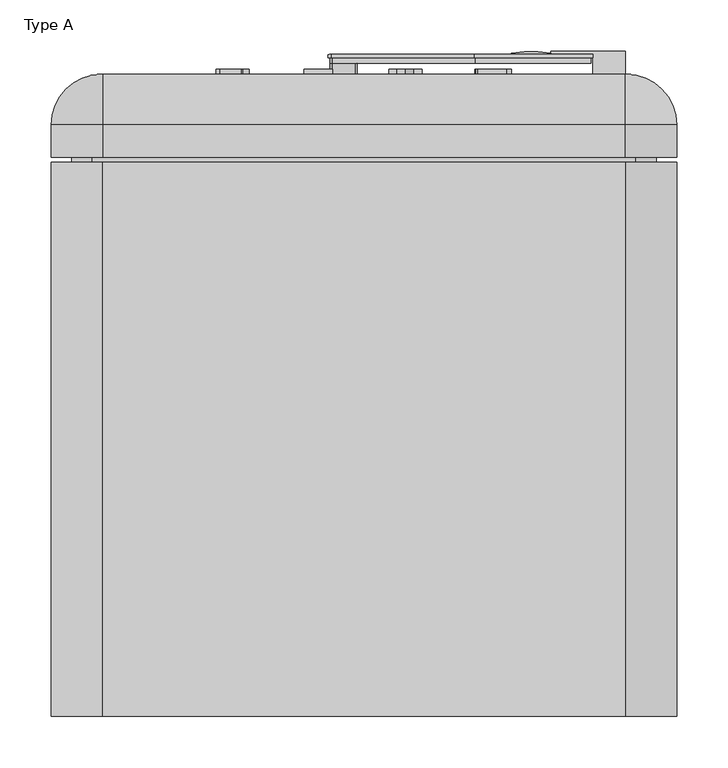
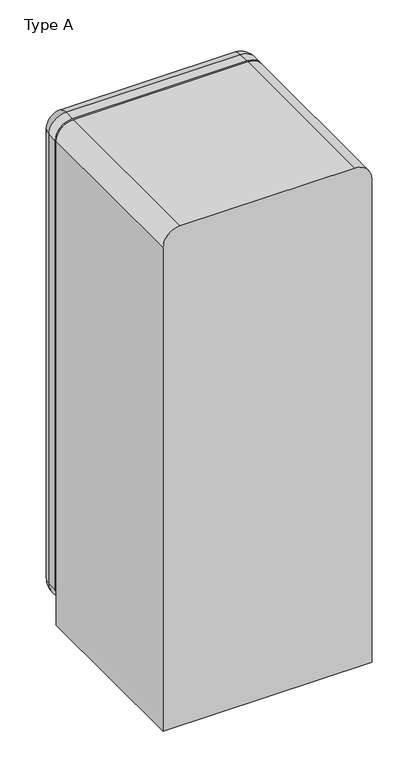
"""IFC4 building model written with IfcOpenShell, lengths in millimetres: proxy geometry, SMEG_-_Retro_Refrigerator_13153 : Type A."""

from ifc_helpers import new_model, si_unit, point, frame, frame_2d, origin, origin_with_axes, place, context, project, spatial, polyline, circle_curve, ellipse_curve, trimmed, segment, composite_curve, outline, extrude, source, transform, mapped, element, save
from ifc_brep_helpers import plane_surface, cylinder_surface, revolved_surface, advanced_brep


def type_a_472c7ea6(model_context):
    return source(origin(), model_context, "Body", "SolidModel", [
        extrude(outline(composite_curve([segment(trimmed(circle_curve(frame_2d((265.0978251, 40.0)), 20.0), [point((245.0978251, 40.0))], [point((285.0978251, 40.0))], False, "CARTESIAN"), True, "CONTINUOUS"), segment(trimmed(circle_curve(frame_2d((265.0978251, 40.0)), 20.0), [point((285.0978251, 40.0))], [point((245.0978251, 40.0))], False, "CARTESIAN"), True, "CONTINUOUS")], self_intersect=False)), origin_with_axes(), (0.0, 0.0, 1.0), 5.0),
        extrude(outline(composite_curve([segment(trimmed(circle_curve(frame_2d((-265.0978251, 40.0)), 20.0), [point((-285.0978251, 40.0))], [point((-245.0978251, 40.0))], False, "CARTESIAN"), True, "CONTINUOUS"), segment(trimmed(circle_curve(frame_2d((-265.0978251, 40.0)), 20.0), [point((-245.0978251, 40.0))], [point((-285.0978251, 40.0))], False, "CARTESIAN"), True, "CONTINUOUS")], self_intersect=False)), origin_with_axes(), (0.0, 0.0, 1.0), 5.0),
        extrude(outline(composite_curve([segment(trimmed(circle_curve(frame_2d((265.0978251, 505.3200021)), 20.0), [point((245.0978251, 505.3200021))], [point((285.0978251, 505.3200021))], False, "CARTESIAN"), True, "CONTINUOUS"), segment(trimmed(circle_curve(frame_2d((265.0978251, 505.3200021)), 20.0), [point((285.0978251, 505.3200021))], [point((245.0978251, 505.3200021))], False, "CARTESIAN"), True, "CONTINUOUS")], self_intersect=False)), origin_with_axes(), (0.0, 0.0, 1.0), 5.0),
        extrude(outline(composite_curve([segment(trimmed(circle_curve(frame_2d((-265.0978251, 505.3200021)), 20.0), [point((-285.0978251, 505.3200021))], [point((-245.0978251, 505.3200021))], False, "CARTESIAN"), True, "CONTINUOUS"), segment(trimmed(circle_curve(frame_2d((-265.0978251, 505.3200021)), 20.0), [point((-245.0978251, 505.3200021))], [point((-285.0978251, 505.3200021))], False, "CARTESIAN"), True, "CONTINUOUS")], self_intersect=False)), origin_with_axes(), (0.0, 0.0, 1.0), 5.0),
        extrude(outline(composite_curve([segment(polyline([(1073.4546732, 180.6528605), (1073.4546732, 221.4244494), (1077.7887864, 221.4244494), (1073.8326231, 108.1347541)]), True, "CONTINUOUS"), segment(trimmed(circle_curve(frame_2d((-978.9801442, 192.0545452)), 2054.5273882), [point((1073.8326231, 108.1347541))], [point((1063.3646393, -31.352201))], False, "CARTESIAN"), True, "CONTINUOUS"), segment(trimmed(circle_curve(frame_2d((1061.2464991, -31.1205032)), 2.1307749), [point((1063.3646393, -31.352201))], [point((1061.2464991, -33.2512781))], False, "CARTESIAN"), True, "CONTINUOUS"), segment(polyline([(1061.2464991, -33.2512781), (1052.0628473, -33.2512781)]), True, "CONTINUOUS"), segment(trimmed(circle_curve(frame_2d((1052.0628473, -31.1205032)), 2.1307749), [point((1052.0628473, -33.2512781))], [point((1049.9447071, -31.352201))], False, "CARTESIAN"), True, "CONTINUOUS"), segment(trimmed(circle_curve(frame_2d((3092.2894906, 192.0545452)), 2054.5273882), [point((1049.9447071, -31.352201))], [point((1039.4767233, 108.1347541))], False, "CARTESIAN"), True, "CONTINUOUS"), segment(polyline([(1039.4767233, 108.1347541), (1035.52056, 221.4244494), (1039.8546732, 221.4244494), (1039.8546732, 180.6528605), (1073.4546732, 180.6528605)]), True, "CONTINUOUS")], self_intersect=False)), frame((0.0, 637.1901804, 0.0), z_axis=(0.0, 1.0, 0.0), x_axis=(0.0, 0.0, 1.0)), (0.0, 0.0, 1.0), 5.2925432),
        extrude(outline(composite_curve([segment(trimmed(circle_curve(frame_2d((1052.4839604, -31.1205032)), 2.1307749), [point((1052.4839604, -33.2512781))], [point((1050.3658202, -31.352201))], False, "CARTESIAN"), True, "CONTINUOUS"), segment(trimmed(circle_curve(frame_2d((3092.7106037, 192.0545452)), 2054.5273882), [point((1050.3658202, -31.352201))], [point((1047.9918659, -8.4649603))], False, "CARTESIAN"), True, "CONTINUOUS"), segment(trimmed(circle_curve(frame_2d((1049.7692462, -8.2906579)), 1.7859065), [point((1047.9918659, -8.4649603))], [point((1049.7692462, -6.5047514))], False, "CARTESIAN"), True, "CONTINUOUS"), segment(polyline([(1049.7692462, -6.5047514), (1063.4763437, -6.5047514)]), True, "CONTINUOUS"), segment(trimmed(circle_curve(frame_2d((1063.4763437, -8.348467)), 1.8437156), [point((1063.4763437, -6.5047514))], [point((1065.3112515, -8.5284685))], False, "CARTESIAN"), True, "CONTINUOUS"), segment(trimmed(circle_curve(frame_2d((-979.4012573, 192.0545452)), 2054.5273882), [point((1065.3112515, -8.5284685))], [point((1062.9435262, -31.352201))], False, "CARTESIAN"), True, "CONTINUOUS"), segment(trimmed(circle_curve(frame_2d((1060.825386, -31.1205032)), 2.1307749), [point((1062.9435262, -31.352201))], [point((1060.825386, -33.2512781))], False, "CARTESIAN"), True, "CONTINUOUS"), segment(polyline([(1060.825386, -33.2512781), (1052.4839604, -33.2512781)]), True, "CONTINUOUS")], self_intersect=False)), frame((0.0, 626.174088, 0.0), z_axis=(0.0, 1.0, 0.0), x_axis=(0.0, 0.0, 1.0)), (0.0, 0.0, 1.0), 11.0160924),
        extrude(outline(polyline([(251.7645617, 626.174088), (223.5217096, 626.174088), (223.5217096, 642.4827236), (182.4528605, 642.4827236), (182.4528605, 645.5405927), (251.7645617, 645.5405927), (251.7645617, 626.174088)])), frame((0.0, 0.0, 1044.4795448), z_axis=(0.0, 0.0, 1.0), x_axis=(1.0, 0.0, 0.0)), (0.0, 0.0, 1.0), 2.7254962),
        extrude(outline(polyline([(254.8224309, 626.174088), (223.5217096, 626.174088), (223.5217096, 642.4827236), (182.4528605, 642.4827236), (182.4528605, 648.5984619), (254.8224309, 648.5984619), (254.8224309, 626.174088)])), frame((0.0, 0.0, 1041.6546732), z_axis=(0.0, 0.0, 1.0), x_axis=(1.0, 0.0, 0.0)), (0.0, 0.0, 1.0), 2.8248716),
        extrude(outline(polyline([(254.8224309, 626.174088), (223.5217096, 626.174088), (223.5217096, 642.4827236), (182.4528605, 642.4827236), (182.4528605, 648.5984619), (254.8224309, 648.5984619), (254.8224309, 626.174088)])), frame((0.0, 0.0, 1047.205041), z_axis=(0.0, 0.0, 1.0), x_axis=(1.0, 0.0, 0.0)), (0.0, 0.0, 1.0), 2.638466),
        extrude(outline(polyline([(251.7645617, 626.174088), (223.5217096, 626.174088), (223.5217096, 642.4827236), (182.4528605, 642.4827236), (182.4528605, 645.5405927), (251.7645617, 645.5405927), (251.7645617, 626.174088)])), frame((0.0, 0.0, 1049.843507), z_axis=(0.0, 0.0, 1.0), x_axis=(1.0, 0.0, 0.0)), (0.0, 0.0, 1.0), 2.7254962),
        extrude(outline(polyline([(251.7645617, 626.174088), (223.5217096, 626.174088), (223.5217096, 642.4827236), (182.4528605, 642.4827236), (182.4528605, 645.5405927), (251.7645617, 645.5405927), (251.7645617, 626.174088)])), frame((0.0, 0.0, 1055.2074692), z_axis=(0.0, 0.0, 1.0), x_axis=(1.0, 0.0, 0.0)), (0.0, 0.0, 1.0), 2.7254962),
        extrude(outline(polyline([(254.8224309, 626.174088), (223.5217096, 626.174088), (223.5217096, 642.4827236), (182.4528605, 642.4827236), (182.4528605, 648.5984619), (254.8224309, 648.5984619), (254.8224309, 626.174088)])), frame((0.0, 0.0, 1052.5690032), z_axis=(0.0, 0.0, 1.0), x_axis=(1.0, 0.0, 0.0)), (0.0, 0.0, 1.0), 2.638466),
        extrude(outline(polyline([(254.8224309, 626.174088), (223.5217096, 626.174088), (223.5217096, 642.4827236), (182.4528605, 642.4827236), (182.4528605, 648.5984619), (254.8224309, 648.5984619), (254.8224309, 626.174088)])), frame((0.0, 0.0, 1057.9329654), z_axis=(0.0, 0.0, 1.0), x_axis=(1.0, 0.0, 0.0)), (0.0, 0.0, 1.0), 2.638466),
        extrude(outline(polyline([(251.7645617, 626.174088), (223.5217096, 626.174088), (223.5217096, 642.4827236), (182.4528605, 642.4827236), (182.4528605, 645.5405927), (251.7645617, 645.5405927), (251.7645617, 626.174088)])), frame((0.0, 0.0, 1060.5714314), z_axis=(0.0, 0.0, 1.0), x_axis=(1.0, 0.0, 0.0)), (0.0, 0.0, 1.0), 2.7254962),
        extrude(outline(polyline([(251.7645617, 626.174088), (223.5217096, 626.174088), (223.5217096, 642.4827236), (182.4528605, 642.4827236), (182.4528605, 645.5405927), (251.7645617, 645.5405927), (251.7645617, 626.174088)])), frame((0.0, 0.0, 1065.9353936), z_axis=(0.0, 0.0, 1.0), x_axis=(1.0, 0.0, 0.0)), (0.0, 0.0, 1.0), 2.7254962),
        extrude(outline(composite_curve([segment(polyline([(143.719851, 642.4827236), (143.719851, 646.5598825)]), True, "CONTINUOUS"), segment(trimmed(circle_curve(frame_2d((163.0863558, 555.5882746)), 93.0101873), [point((143.719851, 646.5598825))], [point((182.4528605, 646.5598825))], False, "CARTESIAN"), True, "CONTINUOUS"), segment(polyline([(182.4528605, 646.5598825), (182.4528605, 642.4827236), (143.719851, 642.4827236)]), True, "CONTINUOUS")], self_intersect=False)), frame((0.0, 0.0, 1041.6420114), z_axis=(0.0, 0.0, 1.0), x_axis=(1.0, 0.0, 0.0)), (0.0, 0.0, 1.0), 29.8564118),
        extrude(outline(composite_curve([segment(polyline([(1079.652741, 223.2244494), (1075.6313397, 108.0665835)]), True, "CONTINUOUS"), segment(trimmed(circle_curve(frame_2d((-978.9801442, 192.0545452)), 2056.3273882), [point((1075.6313397, 108.0665835))], [point((1065.1583584, -31.5077723))], False, "CARTESIAN"), True, "CONTINUOUS"), segment(trimmed(circle_curve(frame_2d((1061.2061789, -31.0755323)), 3.9757458), [point((1065.1583584, -31.5077723))], [point((1061.2061789, -35.0512781))], False, "CARTESIAN"), True, "CONTINUOUS"), segment(polyline([(1061.2061789, -35.0512781), (1052.1031676, -35.0512781)]), True, "CONTINUOUS"), segment(trimmed(circle_curve(frame_2d((1052.1031676, -31.0755323)), 3.9757458), [point((1052.1031676, -35.0512781))], [point((1048.1509881, -31.5077723))], False, "CARTESIAN"), True, "CONTINUOUS"), segment(trimmed(circle_curve(frame_2d((3092.2894906, 192.0545452)), 2056.3273882), [point((1048.1509881, -31.5077723))], [point((1037.6780067, 108.0665835))], False, "CARTESIAN"), True, "CONTINUOUS"), segment(polyline([(1037.6780067, 108.0665835), (1033.6566054, 223.2244494), (1041.6546732, 223.2244494), (1041.6546732, 182.4528605), (1071.6546732, 182.4528605), (1071.6546732, 223.2244494), (1079.652741, 223.2244494)]), True, "CONTINUOUS")], self_intersect=False), holes=[composite_curve([segment(polyline([(1077.7887864, 221.4244494), (1073.4546732, 221.4244494), (1073.4546732, 180.6528605), (1039.8546732, 180.6528605), (1039.8546732, 221.4244494), (1035.52056, 221.4244494), (1039.4767233, 108.1347541)]), True, "CONTINUOUS"), segment(trimmed(circle_curve(frame_2d((3092.2894906, 192.0545452)), 2054.5273882), [point((1039.4767233, 108.1347541))], [point((1049.9447071, -31.352201))], True, "CARTESIAN"), True, "CONTINUOUS"), segment(trimmed(circle_curve(frame_2d((1052.0628473, -31.1205032)), 2.1307749), [point((1049.9447071, -31.352201))], [point((1052.0628473, -33.2512781))], True, "CARTESIAN"), True, "CONTINUOUS"), segment(polyline([(1052.0628473, -33.2512781), (1061.2464991, -33.2512781)]), True, "CONTINUOUS"), segment(trimmed(circle_curve(frame_2d((1061.2464991, -31.1205032)), 2.1307749), [point((1061.2464991, -33.2512781))], [point((1063.3646393, -31.352201))], True, "CARTESIAN"), True, "CONTINUOUS"), segment(trimmed(circle_curve(frame_2d((-978.9801442, 192.0545452)), 2054.5273882), [point((1063.3646393, -31.352201))], [point((1073.8326231, 108.1347541))], True, "CARTESIAN"), True, "CONTINUOUS"), segment(polyline([(1073.8326231, 108.1347541), (1077.7887864, 221.4244494)]), True, "CONTINUOUS")], self_intersect=False)]), frame((0.0, 642.4827236, 0.0), z_axis=(0.0, 1.0, 0.0), x_axis=(0.0, 0.0, 1.0)), (0.0, 0.0, 1.0), 3.0578692),
        extrude(outline(polyline([(254.8224309, 626.174088), (223.5217096, 626.174088), (223.5217096, 642.4827236), (182.4528605, 642.4827236), (182.4528605, 648.5984619), (254.8224309, 648.5984619), (254.8224309, 626.174088)])), frame((0.0, 0.0, 1063.2969276), z_axis=(0.0, 0.0, 1.0), x_axis=(1.0, 0.0, 0.0)), (0.0, 0.0, 1.0), 2.638466),
        extrude(outline(polyline([(254.8224309, 626.174088), (223.5217096, 626.174088), (223.5217096, 642.4827236), (182.4528605, 642.4827236), (182.4528605, 648.5984619), (254.8224309, 648.5984619), (254.8224309, 626.174088)])), frame((0.0, 0.0, 1068.6608898), z_axis=(0.0, 0.0, 1.0), x_axis=(1.0, 0.0, 0.0)), (0.0, 0.0, 1.0), 2.9937834),
        extrude(outline(polyline([(1363.1270674, 56.463273), (1388.3218814, 56.463273), (1388.3218814, 48.6904048), (1370.7400069, 40.4918421), (1388.3218814, 32.2932793), (1388.3218814, 24.5204111), (1363.1270674, 24.5204111), (1363.1270674, 30.8140815), (1378.1391145, 30.8140815), (1363.3950974, 38.4579678), (1363.3950974, 39.4678471), (1363.3950974, 41.515837), (1363.3950974, 42.5257163), (1378.1391145, 51.2091876), (1363.1270674, 51.2091876), (1363.1270674, 56.463273)])), frame((0.0, 626.174088, 0.0), z_axis=(0.0, 1.0, 0.0), x_axis=(0.0, 0.0, 1.0)), (0.0, 0.0, 1.0), 5.0964486),
        extrude(outline(polyline([(1388.3218814, -30.6937558), (1388.3218814, -58.2145783), (1384.9625514, -58.2145783), (1384.9625514, -38.8480736), (1377.8275234, -38.8480736), (1377.8275234, -58.2145783), (1373.7503645, -58.2145783), (1373.7503645, -38.8480736), (1365.5960467, -38.8480736), (1365.5960467, -58.2145783), (1361.5188878, -58.2145783), (1361.5188878, -30.6937558), (1388.3218814, -30.6937558)])), frame((0.0, 626.174088, 0.0), z_axis=(0.0, 1.0, 0.0), x_axis=(0.0, 0.0, 1.0)), (0.0, 0.0, 1.0), 5.0964486),
        extrude(outline(composite_curve([segment(polyline([(1388.0538515, -119.9477246), (1388.0538515, -140.1113958)]), True, "CONTINUOUS"), segment(trimmed(circle_curve(frame_2d((1384.0948284, -140.1113958)), 3.9590231), [point((1388.0538515, -140.1113958))], [point((1384.0948284, -144.0704189))], False, "CARTESIAN"), True, "CONTINUOUS"), segment(polyline([(1384.0948284, -144.0704189), (1379.2088636, -144.0704189), (1379.2088636, -137.9057303), (1381.8197562, -137.9057303)]), True, "CONTINUOUS"), segment(trimmed(circle_curve(frame_2d((1381.8197562, -135.4240541)), 2.4816762), [point((1381.8197562, -137.9057303))], [point((1384.3014324, -135.4240541))], True, "CARTESIAN"), True, "CONTINUOUS"), segment(polyline([(1384.3014324, -135.4240541), (1384.3014324, -123.4771841), (1384.3014324, -120.293061)]), True, "CONTINUOUS"), segment(trimmed(circle_curve(frame_2d((1381.8118565, -120.293061)), 2.4895759), [point((1384.3014324, -120.293061))], [point((1381.8118565, -117.8034851))], True, "CARTESIAN"), True, "CONTINUOUS"), segment(polyline([(1381.8118565, -117.8034851), (1368.5294876, -117.8034851)]), True, "CONTINUOUS"), segment(trimmed(circle_curve(frame_2d((1368.5294876, -120.2755766)), 2.4720914), [point((1368.5294876, -117.8034851))], [point((1366.0573962, -120.2755766))], True, "CARTESIAN"), True, "CONTINUOUS"), segment(polyline([(1366.0573962, -120.2755766), (1366.0573962, -135.8919418)]), True, "CONTINUOUS"), segment(trimmed(circle_curve(frame_2d((1368.6072446, -135.8919418)), 2.5498484), [point((1366.0573962, -135.8919418))], [point((1368.6072446, -138.4417902))], True, "CARTESIAN"), True, "CONTINUOUS"), segment(polyline([(1368.6072446, -138.4417902), (1372.3496251, -138.4417902), (1372.3496251, -126.9165029), (1375.1884146, -126.9165029), (1375.1884146, -144.0704189), (1366.5188878, -144.0704189)]), True, "CONTINUOUS"), segment(trimmed(circle_curve(frame_2d((1366.5188878, -139.0704189)), 5.0), [point((1366.5188878, -144.0704189))], [point((1361.5188878, -139.0704189))], False, "CARTESIAN"), True, "CONTINUOUS"), segment(polyline([(1361.5188878, -139.0704189), (1361.5188878, -117.6748564)]), True, "CONTINUOUS"), segment(trimmed(circle_curve(frame_2d((1367.0188878, -117.6748564)), 5.5), [point((1361.5188878, -117.6748564))], [point((1367.0188878, -112.1748564))], False, "CARTESIAN"), True, "CONTINUOUS"), segment(polyline([(1367.0188878, -112.1748564), (1382.5538515, -112.1748564)]), True, "CONTINUOUS"), segment(trimmed(circle_curve(frame_2d((1382.5538515, -117.6748564)), 5.5), [point((1382.5538515, -112.1748564))], [point((1388.0538515, -117.6748564))], False, "CARTESIAN"), True, "CONTINUOUS"), segment(polyline([(1388.0538515, -117.6748564), (1388.0538515, -119.9477246)]), True, "CONTINUOUS")], self_intersect=False)), frame((0.0, 626.174088, 0.0), z_axis=(0.0, 1.0, 0.0), x_axis=(0.0, 0.0, 1.0)), (0.0, 0.0, 1.0), 5.0964486),
        extrude(outline(composite_curve([segment(polyline([(1382.6948226, 117.6843978), (1382.6948226, 135.0783722)]), True, "CONTINUOUS"), segment(trimmed(circle_curve(frame_2d((1380.0137383, 135.0783722)), 2.6810843), [point((1382.6948226, 135.0783722))], [point((1377.3326541, 135.0783722))], True, "CARTESIAN"), True, "CONTINUOUS"), segment(polyline([(1377.3326541, 135.0783722), (1377.3326541, 129.0520863), (1377.3326541, 125.8357271), (1377.3326541, 118.3308889), (1377.3326541, 112.418156)]), True, "CONTINUOUS"), segment(trimmed(circle_curve(frame_2d((1373.3282793, 112.418156)), 4.0043747), [point((1377.3326541, 112.418156))], [point((1373.3282793, 108.4137812))], False, "CARTESIAN"), True, "CONTINUOUS"), segment(polyline([(1373.3282793, 108.4137812), (1370.0958458, 108.4137812), (1366.0053212, 108.4137812)]), True, "CONTINUOUS"), segment(trimmed(circle_curve(frame_2d((1366.0053212, 112.3641548)), 3.9503736), [point((1366.0053212, 108.4137812))], [point((1362.0549477, 112.3641548))], False, "CARTESIAN"), True, "CONTINUOUS"), segment(polyline([(1362.0549477, 112.3641548), (1362.0549477, 141.7200251)]), True, "CONTINUOUS"), segment(trimmed(circle_curve(frame_2d((1364.0549477, 141.7200251)), 2.0), [point((1362.0549477, 141.7200251))], [point((1364.0549477, 143.7200251))], False, "CARTESIAN"), True, "CONTINUOUS"), segment(polyline([(1364.0549477, 143.7200251), (1370.3631973, 143.7200251), (1370.3631973, 140.3054638), (1368.6475165, 140.3054638)]), True, "CONTINUOUS"), segment(trimmed(circle_curve(frame_2d((1368.6475165, 138.8054638)), 1.5), [point((1368.6475165, 140.3054638))], [point((1367.1475165, 138.8054638))], True, "CARTESIAN"), True, "CONTINUOUS"), segment(polyline([(1367.1475165, 138.8054638), (1367.1475165, 130.9282959), (1367.1475165, 123.4234577), (1367.1475165, 118.693904)]), True, "CONTINUOUS"), segment(trimmed(circle_curve(frame_2d((1369.9882458, 118.693904)), 2.8407293), [point((1367.1475165, 118.693904))], [point((1372.8289752, 118.693904))], True, "CARTESIAN"), True, "CONTINUOUS"), segment(polyline([(1372.8289752, 118.693904), (1372.8289752, 139.7501138)]), True, "CONTINUOUS"), segment(trimmed(circle_curve(frame_2d((1376.7988864, 139.7501138)), 3.9699113), [point((1372.8289752, 139.7501138))], [point((1376.7988864, 143.7200251))], False, "CARTESIAN"), True, "CONTINUOUS"), segment(polyline([(1376.7988864, 143.7200251), (1383.7858216, 143.7200251)]), True, "CONTINUOUS"), segment(trimmed(circle_curve(frame_2d((1383.7858216, 139.7200251)), 4.0), [point((1383.7858216, 143.7200251))], [point((1387.7858216, 139.7200251))], False, "CARTESIAN"), True, "CONTINUOUS"), segment(polyline([(1387.7858216, 139.7200251), (1387.7858216, 111.267263)]), True, "CONTINUOUS"), segment(trimmed(circle_curve(frame_2d((1385.7364296, 111.267263)), 2.049392), [point((1387.7858216, 111.267263))], [point((1385.7364296, 109.217871))], False, "CARTESIAN"), True, "CONTINUOUS"), segment(polyline([(1385.7364296, 109.217871), (1379.4768935, 109.217871), (1379.4768935, 116.1866494), (1381.1970742, 116.1866494)]), True, "CONTINUOUS"), segment(trimmed(circle_curve(frame_2d((1381.1970742, 117.6843978)), 1.4977484), [point((1381.1970742, 116.1866494))], [point((1382.6948226, 117.6843978))], True, "CARTESIAN"), True, "CONTINUOUS")], self_intersect=False)), frame((0.0, 626.174088, 0.0), z_axis=(0.0, 1.0, 0.0), x_axis=(0.0, 0.0, 1.0)), (0.0, 0.0, 1.0), 5.0964486),
        advanced_brep(
        [(-255.0978251, 545.3200021, 1547.9421958), (-305.0978251, 545.3200021, 1497.9421958), (-305.0978251, 545.3200021, 111.1573834), (-255.0978251, 545.3200021, 61.1573834), (255.0978251, 545.3200021, 61.1573834), (305.0978251, 545.3200021, 111.1573834), (305.0978251, 545.3200021, 1497.9421958), (255.0978251, 545.3200021, 1547.9421958), (255.0978251, 626.174088, 1498.9421958), (256.0978251, 626.174088, 1497.9421958), (256.0978251, 626.174088, 111.1573834), (255.0978251, 626.174088, 110.1573834), (-255.0978251, 626.174088, 110.1573834), (-256.0978251, 626.174088, 111.1573834), (-256.0978251, 626.174088, 1497.9421958), (-255.0978251, 626.174088, 1498.9421958), (-255.0978251, 577.174088, 1547.9421958), (-305.0978251, 577.174088, 1497.9421958), (-305.0978251, 577.174088, 111.1573834), (-255.0978251, 577.174088, 61.1573834), (255.0978251, 577.174088, 61.1573834), (305.0978251, 577.174088, 111.1573834), (305.0978251, 577.174088, 1497.9421958), (255.0978251, 577.174088, 1547.9421958)],
        [
            (0, 1, circle_curve(frame((-255.0978251, 545.3200021, 1497.9421958), z_axis=(0.0, -1.0, 0.0), x_axis=(1.0, 0.0, 0.0)), 50.0)),
            (1, 2),
            (2, 3, circle_curve(frame((-255.0978251, 545.3200021, 111.1573834), z_axis=(0.0, -1.0, 0.0), x_axis=(1.0, 0.0, 0.0)), 50.0)),
            (3, 4),
            (4, 5, circle_curve(frame((255.0978251, 545.3200021, 111.1573834), z_axis=(0.0, -1.0, 0.0), x_axis=(1.0, 0.0, 0.0)), 50.0)),
            (5, 6),
            (6, 7, circle_curve(frame((255.0978251, 545.3200021, 1497.9421958), z_axis=(0.0, -1.0, 0.0), x_axis=(1.0, 0.0, 0.0)), 50.0)),
            (7, 0),
            (8, 9, circle_curve(frame((255.0978251, 626.174088, 1497.9421958), z_axis=(0.0, 1.0, 0.0), x_axis=(0.0, 0.0, 1.0)), 1.0)),
            (9, 10),
            (10, 11, circle_curve(frame((255.0978251, 626.174088, 111.1573834), z_axis=(0.0, 1.0, 0.0), x_axis=(1.0, 0.0, 0.0)), 1.0)),
            (11, 12),
            (12, 13, circle_curve(frame((-255.0978251, 626.174088, 111.1573834), z_axis=(0.0, 1.0, 0.0), x_axis=(0.0, 0.0, -1.0)), 1.0)),
            (13, 14),
            (14, 15, circle_curve(frame((-255.0978251, 626.174088, 1497.9421958), z_axis=(0.0, 1.0, 0.0), x_axis=(-1.0, 0.0, 0.0)), 1.0)),
            (15, 8),
            (0, 16),
            (16, 17, circle_curve(frame((-255.0978251, 577.174088, 1497.9421958), z_axis=(0.0, -1.0, 0.0), x_axis=(1.0, 0.0, 0.0)), 50.0)),
            (17, 1),
            (17, 18),
            (18, 2),
            (18, 19, circle_curve(frame((-255.0978251, 577.174088, 111.1573834), z_axis=(0.0, -1.0, 0.0), x_axis=(1.0, 0.0, 0.0)), 50.0)),
            (19, 3),
            (19, 20),
            (20, 4),
            (20, 21, circle_curve(frame((255.0978251, 577.174088, 111.1573834), z_axis=(0.0, -1.0, 0.0), x_axis=(1.0, 0.0, 0.0)), 50.0)),
            (21, 5),
            (21, 22),
            (22, 6),
            (22, 23, circle_curve(frame((255.0978251, 577.174088, 1497.9421958), z_axis=(0.0, -1.0, 0.0), x_axis=(1.0, 0.0, 0.0)), 50.0)),
            (23, 7),
            (23, 16),
            (22, 9, circle_curve(frame((256.0978251, 577.174088, 1497.9421958), z_axis=(0.0, 0.0, 1.0), x_axis=(-1.0, 0.0, 0.0)), 49.0)),
            (8, 23, circle_curve(frame((255.0978251, 577.174088, 1498.9421958), z_axis=(1.0, 0.0, 0.0), x_axis=(0.0, 0.0, -1.0)), 49.0)),
            (21, 10, circle_curve(frame((256.0978251, 577.174088, 111.1573834), z_axis=(0.0, 0.0, 1.0), x_axis=(-1.0, 0.0, 0.0)), 49.0)),
            (20, 11, circle_curve(frame((255.0978251, 577.174088, 110.1573834), z_axis=(1.0, 0.0, 0.0), x_axis=(0.0, 0.0, 1.0)), 49.0)),
            (19, 12, circle_curve(frame((-255.0978251, 577.174088, 110.1573834), z_axis=(1.0, 0.0, 0.0), x_axis=(0.0, 0.0, 1.0)), 49.0)),
            (18, 13, circle_curve(frame((-256.0978251, 577.174088, 111.1573834), z_axis=(0.0, 0.0, -1.0), x_axis=(1.0, 0.0, 0.0)), 49.0)),
            (17, 14, circle_curve(frame((-256.0978251, 577.174088, 1497.9421958), z_axis=(0.0, 0.0, -1.0), x_axis=(1.0, 0.0, 0.0)), 49.0)),
            (16, 15, circle_curve(frame((-255.0978251, 577.174088, 1498.9421958), z_axis=(-1.0, 0.0, 0.0), x_axis=(0.0, 0.0, -1.0)), 49.0)),
        ],
        [
            plane_surface(frame((-205.0978251, 545.3200021, 1497.9421958), z_axis=(0.0, -1.0, 0.0), x_axis=(0.0, 0.0, 1.0))),
            plane_surface(frame((-205.0978251, 626.174088, 1497.9421958), z_axis=(0.0, 1.0, 0.0), x_axis=(0.0, 0.0, -1.0))),
            cylinder_surface(frame((-255.0978251, 626.174088, 1497.9421958), z_axis=(0.0, -1.0, 0.0), x_axis=(1.0, 0.0, 0.0)), 50.0),
            plane_surface(frame((-305.0978251, 545.3200021, 1497.9421958), z_axis=(-1.0, 0.0, 0.0), x_axis=(0.0, 1.0, 0.0))),
            cylinder_surface(frame((-255.0978251, 626.174088, 111.1573834), z_axis=(0.0, -1.0, 0.0), x_axis=(1.0, 0.0, 0.0)), 50.0),
            plane_surface(frame((-255.0978251, 545.3200021, 61.1573834), z_axis=(0.0, 0.0, -1.0), x_axis=(0.0, 1.0, 0.0))),
            cylinder_surface(frame((255.0978251, 626.174088, 111.1573834), z_axis=(0.0, -1.0, 0.0), x_axis=(1.0, 0.0, 0.0)), 50.0),
            plane_surface(frame((305.0978251, 545.3200021, 111.1573834), z_axis=(1.0, 0.0, 0.0), x_axis=(0.0, 1.0, 0.0))),
            cylinder_surface(frame((255.0978251, 626.174088, 1497.9421958), z_axis=(0.0, -1.0, 0.0), x_axis=(1.0, 0.0, 0.0)), 50.0),
            plane_surface(frame((255.0978251, 545.3200021, 1547.9421958), z_axis=(0.0, 0.0, 1.0), x_axis=(0.0, 1.0, 0.0))),
            revolved_surface(trimmed(ellipse_curve(frame((255.0978251, 577.174088, 1498.9421958), z_axis=(-1.0, 0.0, 0.0), x_axis=(0.0, 0.0, -1.0)), 49.0, 49.0), [point((255.0978251, 577.174088, 1547.9421958))], [point((255.0978251, 626.174088, 1498.9421958))], True, "CARTESIAN"), (255.0978251, 626.174088, 1497.9421958), (0.0, 1.0, 0.0)),
            cylinder_surface(frame((256.0978251, 577.174088, 1497.9421958), z_axis=(0.0, 0.0, -1.0), x_axis=(-1.0, 0.0, 0.0)), 49.0),
            revolved_surface(trimmed(ellipse_curve(frame((256.0978251, 577.174088, 111.1573834), z_axis=(0.0, 0.0, 1.0), x_axis=(-1.0, 0.0, 0.0)), 49.0, 49.0), [point((305.0978251, 577.174088, 111.1573834))], [point((256.0978251, 626.174088, 111.1573834))], True, "CARTESIAN"), (255.0978251, 626.174088, 111.1573834), (0.0, 1.0, 0.0)),
            cylinder_surface(frame((255.0978251, 577.174088, 110.1573834), z_axis=(-1.0, 0.0, 0.0), x_axis=(0.0, 0.0, 1.0)), 49.0),
            revolved_surface(trimmed(ellipse_curve(frame((-255.0978251, 577.174088, 110.1573834), z_axis=(1.0, 0.0, 0.0), x_axis=(0.0, 0.0, 1.0)), 49.0, 49.0), [point((-255.0978251, 577.174088, 61.1573834))], [point((-255.0978251, 626.174088, 110.1573834))], True, "CARTESIAN"), (-255.0978251, 626.174088, 111.1573834), (0.0, 1.0, 0.0)),
            cylinder_surface(frame((-256.0978251, 577.174088, 111.1573834), z_axis=(0.0, 0.0, 1.0), x_axis=(1.0, 0.0, 0.0)), 49.0),
            revolved_surface(trimmed(ellipse_curve(frame((-256.0978251, 577.174088, 1497.9421958), z_axis=(0.0, 0.0, -1.0), x_axis=(1.0, 0.0, 0.0)), 49.0, 49.0), [point((-305.0978251, 577.174088, 1497.9421958))], [point((-256.0978251, 626.174088, 1497.9421958))], True, "CARTESIAN"), (-255.0978251, 626.174088, 1497.9421958), (0.0, 1.0, 0.0)),
            cylinder_surface(frame((-255.0978251, 577.174088, 1498.9421958), z_axis=(1.0, 0.0, 0.0), x_axis=(0.0, 0.0, -1.0)), 49.0),
        ],
        [
            (0, [[1, 2, 3, 4, 5, 6, 7, 8]]),
            (1, [[9, 10, 11, 12, 13, 14, 15, 16]]),
            (2, [[-1, 17, 18, 19]]),
            (3, [[-2, -19, 20, 21]]),
            (4, [[-3, -21, 22, 23]]),
            (5, [[-4, -23, 24, 25]]),
            (6, [[-5, -25, 26, 27]]),
            (7, [[-6, -27, 28, 29]]),
            (8, [[-7, -29, 30, 31]]),
            (9, [[-8, -31, 32, -17]]),
            (10, [[33, -9, 34, -30]]),
            (11, [[-33, -28, 35, -10]]),
            (12, [[-35, -26, 36, -11]]),
            (13, [[-36, -24, 37, -12]]),
            (14, [[-37, -22, 38, -13]]),
            (15, [[-38, -20, 39, -14]]),
            (16, [[-39, -18, 40, -15]]),
            (17, [[-34, -16, -40, -32]]),
        ],
    ),
        extrude(outline(composite_curve([segment(trimmed(circle_curve(frame_2d((1507.9421958, 265.0978251)), 20.0), [point((1507.9421958, 285.0978251))], [point((1527.9421958, 265.0978251))], False, "CARTESIAN"), True, "CONTINUOUS"), segment(polyline([(1527.9421958, 265.0978251), (1527.9421958, -265.0978251)]), True, "CONTINUOUS"), segment(trimmed(circle_curve(frame_2d((1507.9421958, -265.0978251)), 20.0), [point((1527.9421958, -265.0978251))], [point((1507.9421958, -285.0978251))], False, "CARTESIAN"), True, "CONTINUOUS"), segment(polyline([(1507.9421958, -285.0978251), (81.1573834, -285.0978251), (81.1573834, 285.0978251), (1507.9421958, 285.0978251)]), True, "CONTINUOUS")], self_intersect=False)), frame((0.0, 540.2235534, 0.0), z_axis=(0.0, 1.0, 0.0), x_axis=(0.0, 0.0, 1.0)), (0.0, 0.0, 1.0), 5.0964486),
        extrude(outline(composite_curve([segment(trimmed(circle_curve(frame_2d((1497.6668016, -254.8224309)), 50.2753942), [point((1547.9421958, -254.8224309))], [point((1497.6668016, -305.0978251))], False, "CARTESIAN"), True, "CONTINUOUS"), segment(polyline([(1497.6668016, -305.0978251), (5.0, -305.0978251), (5.0, 305.0978251), (1497.6668016, 305.0978251)]), True, "CONTINUOUS"), segment(trimmed(circle_curve(frame_2d((1497.6668016, 254.8224309)), 50.2753942), [point((1497.6668016, 305.0978251))], [point((1547.9421958, 254.8224309))], False, "CARTESIAN"), True, "CONTINUOUS"), segment(polyline([(1547.9421958, 254.8224309), (1547.9421958, -254.8224309)]), True, "CONTINUOUS")], self_intersect=False)), frame((0.0, 0.0, 0.0), z_axis=(0.0, 1.0, 0.0), x_axis=(0.0, 0.0, 1.0)), (0.0, 0.0, 1.0), 540.2235534),
    ])


if __name__ == "__main__":
    model = new_model("IFC4")
    model_context = context("Model", 3, world=origin())
    ifc_project = project(units=[si_unit("LENGTHUNIT", "METRE", prefix="MILLI")], contexts=[model_context])
    site = spatial("IfcSite", under=ifc_project)
    building = spatial("IfcBuilding", under=site)
    placement = place(None, origin())
    type_a_shape = type_a_472c7ea6(model_context)
    element("IfcBuildingElementProxy", 1, Name="SMEG_-_Retro_Refrigerator_13153 : Type A", ObjectType="SMEG_-_Retro_Refrigerator_13153 : Type A", at=placement, inside=building, context=model_context, shape_type="MappedRepresentation", body=[
        mapped(type_a_shape, transform((0.0, 0.0, 0.0), x_axis=(1.0, 0.0, 0.0), y_axis=(0.0, 1.0, 0.0), z_axis=(0.0, 0.0, 1.0))),
    ])
    save(model, "model.ifc")
